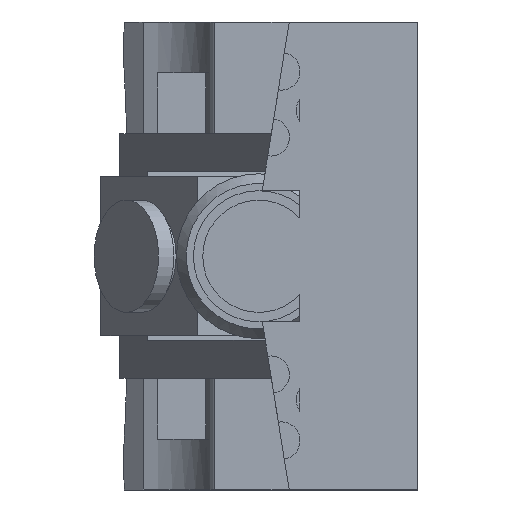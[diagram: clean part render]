
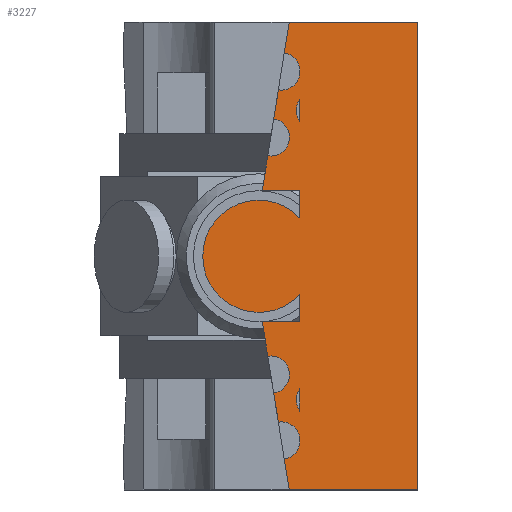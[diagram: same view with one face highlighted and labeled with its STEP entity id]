
A CAD part, front view. The second image highlights one B-rep face of the part: STEP entity #3227.
In plain terms, the highlighted planar face has unit normal (0, -1, 0).
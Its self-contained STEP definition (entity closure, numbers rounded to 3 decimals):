
#43=FACE_BOUND('',#503,.T.);
#44=FACE_BOUND('',#504,.T.);
#146=PLANE('',#3518);
#309=FACE_OUTER_BOUND('',#502,.T.);
#502=EDGE_LOOP('',(#2816,#2817,#2818,#2819,#2820,#2821,#2822,#2823,#2824,
#2825,#2826,#2827,#2828,#2829,#2830,#2831,#2832,#2833,#2834,#2835,#2836,
#2837));
#503=EDGE_LOOP('',(#2838,#2839));
#504=EDGE_LOOP('',(#2840,#2841));
#593=LINE('',#4701,#922);
#597=LINE('',#4709,#926);
#601=LINE('',#4717,#930);
#606=LINE('',#4734,#935);
#808=LINE('',#5283,#1137);
#809=LINE('',#5286,#1138);
#811=LINE('',#5290,#1140);
#813=LINE('',#5295,#1142);
#816=LINE('',#5300,#1145);
#819=LINE('',#5304,#1148);
#822=LINE('',#5312,#1151);
#824=LINE('',#5320,#1153);
#826=LINE('',#5325,#1155);
#829=LINE('',#5329,#1158);
#831=LINE('',#5334,#1160);
#832=LINE('',#5336,#1161);
#833=LINE('',#5338,#1162);
#922=VECTOR('',#3740,10.);
#926=VECTOR('',#3744,10.);
#930=VECTOR('',#3748,10.);
#935=VECTOR('',#3767,10.);
#1137=VECTOR('',#4267,10.);
#1138=VECTOR('',#4270,10.);
#1140=VECTOR('',#4274,10.);
#1142=VECTOR('',#4278,10.);
#1145=VECTOR('',#4281,10.);
#1148=VECTOR('',#4284,10.);
#1151=VECTOR('',#4293,10.);
#1153=VECTOR('',#4305,10.);
#1155=VECTOR('',#4309,10.);
#1158=VECTOR('',#4312,10.);
#1160=VECTOR('',#4320,10.);
#1161=VECTOR('',#4323,10.);
#1162=VECTOR('',#4326,10.);
#1231=CIRCLE('',#3346,3.175);
#1233=CIRCLE('',#3349,3.175);
#1243=CIRCLE('',#3398,3.3);
#1244=CIRCLE('',#3400,3.175);
#1246=CIRCLE('',#3404,3.3);
#1287=CIRCLE('',#3505,3.175);
#1288=CIRCLE('',#3508,3.175);
#1289=CIRCLE('',#3510,3.175);
#1290=CIRCLE('',#3514,9.525);
#1379=VERTEX_POINT('',#4699);
#1380=VERTEX_POINT('',#4700);
#1383=VERTEX_POINT('',#4706);
#1384=VERTEX_POINT('',#4708);
#1387=VERTEX_POINT('',#4714);
#1388=VERTEX_POINT('',#4716);
#1391=VERTEX_POINT('',#4727);
#1393=VERTEX_POINT('',#4733);
#1456=VERTEX_POINT('',#4938);
#1457=VERTEX_POINT('',#4939);
#1458=VERTEX_POINT('',#4944);
#1460=VERTEX_POINT('',#4952);
#1461=VERTEX_POINT('',#4953);
#1570=VERTEX_POINT('',#5285);
#1571=VERTEX_POINT('',#5289);
#1572=VERTEX_POINT('',#5293);
#1573=VERTEX_POINT('',#5294);
#1574=VERTEX_POINT('',#5297);
#1575=VERTEX_POINT('',#5299);
#1576=VERTEX_POINT('',#5302);
#1577=VERTEX_POINT('',#5307);
#1578=VERTEX_POINT('',#5311);
#1579=VERTEX_POINT('',#5319);
#1580=VERTEX_POINT('',#5323);
#1581=VERTEX_POINT('',#5324);
#1582=VERTEX_POINT('',#5327);
#1705=EDGE_CURVE('',#1379,#1380,#593,.T.);
#1709=EDGE_CURVE('',#1384,#1383,#597,.T.);
#1713=EDGE_CURVE('',#1388,#1387,#601,.T.);
#1717=EDGE_CURVE('',#1380,#1388,#1231,.T.);
#1719=EDGE_CURVE('',#1391,#1384,#1233,.T.);
#1722=EDGE_CURVE('',#1383,#1393,#606,.T.);
#1819=EDGE_CURVE('',#1456,#1457,#1243,.T.);
#1822=EDGE_CURVE('',#1387,#1458,#1244,.T.);
#1826=EDGE_CURVE('',#1460,#1461,#1246,.T.);
#1985=EDGE_CURVE('',#1458,#1391,#808,.T.);
#1986=EDGE_CURVE('',#1393,#1570,#809,.T.);
#1988=EDGE_CURVE('',#1570,#1571,#811,.T.);
#1990=EDGE_CURVE('',#1572,#1573,#813,.T.);
#1993=EDGE_CURVE('',#1575,#1574,#816,.T.);
#1996=EDGE_CURVE('',#1571,#1576,#819,.T.);
#1998=EDGE_CURVE('',#1576,#1577,#1287,.T.);
#2000=EDGE_CURVE('',#1577,#1578,#822,.T.);
#2002=EDGE_CURVE('',#1578,#1575,#1288,.T.);
#2003=EDGE_CURVE('',#1574,#1572,#1289,.T.);
#2004=EDGE_CURVE('',#1573,#1579,#824,.T.);
#2006=EDGE_CURVE('',#1580,#1581,#826,.T.);
#2009=EDGE_CURVE('',#1579,#1582,#829,.T.);
#2011=EDGE_CURVE('',#1582,#1580,#1290,.T.);
#2012=EDGE_CURVE('',#1581,#1379,#831,.T.);
#2013=EDGE_CURVE('',#1461,#1460,#832,.T.);
#2014=EDGE_CURVE('',#1457,#1456,#833,.T.);
#2816=ORIENTED_EDGE('',*,*,#1986,.T.);
#2817=ORIENTED_EDGE('',*,*,#1988,.T.);
#2818=ORIENTED_EDGE('',*,*,#1996,.T.);
#2819=ORIENTED_EDGE('',*,*,#1998,.T.);
#2820=ORIENTED_EDGE('',*,*,#2000,.T.);
#2821=ORIENTED_EDGE('',*,*,#2002,.T.);
#2822=ORIENTED_EDGE('',*,*,#1993,.T.);
#2823=ORIENTED_EDGE('',*,*,#2003,.T.);
#2824=ORIENTED_EDGE('',*,*,#1990,.T.);
#2825=ORIENTED_EDGE('',*,*,#2004,.T.);
#2826=ORIENTED_EDGE('',*,*,#2009,.T.);
#2827=ORIENTED_EDGE('',*,*,#2011,.T.);
#2828=ORIENTED_EDGE('',*,*,#2006,.T.);
#2829=ORIENTED_EDGE('',*,*,#2012,.T.);
#2830=ORIENTED_EDGE('',*,*,#1705,.T.);
#2831=ORIENTED_EDGE('',*,*,#1717,.T.);
#2832=ORIENTED_EDGE('',*,*,#1713,.T.);
#2833=ORIENTED_EDGE('',*,*,#1822,.T.);
#2834=ORIENTED_EDGE('',*,*,#1985,.T.);
#2835=ORIENTED_EDGE('',*,*,#1719,.T.);
#2836=ORIENTED_EDGE('',*,*,#1709,.T.);
#2837=ORIENTED_EDGE('',*,*,#1722,.T.);
#2838=ORIENTED_EDGE('',*,*,#2013,.T.);
#2839=ORIENTED_EDGE('',*,*,#1826,.T.);
#2840=ORIENTED_EDGE('',*,*,#2014,.T.);
#2841=ORIENTED_EDGE('',*,*,#1819,.T.);
#3227=ADVANCED_FACE('',(#309,#43,#44),#146,.T.);
#3346=AXIS2_PLACEMENT_3D('',#4724,#3754,#3755);
#3349=AXIS2_PLACEMENT_3D('',#4728,#3760,#3761);
#3398=AXIS2_PLACEMENT_3D('',#4940,#3945,#3946);
#3400=AXIS2_PLACEMENT_3D('',#4945,#3951,#3952);
#3404=AXIS2_PLACEMENT_3D('',#4954,#3961,#3962);
#3505=AXIS2_PLACEMENT_3D('',#5308,#4288,#4289);
#3508=AXIS2_PLACEMENT_3D('',#5315,#4297,#4298);
#3510=AXIS2_PLACEMENT_3D('',#5317,#4301,#4302);
#3514=AXIS2_PLACEMENT_3D('',#5332,#4316,#4317);
#3518=AXIS2_PLACEMENT_3D('',#5339,#4327,#4328);
#3740=DIRECTION('',(0.158,0.,-0.987));
#3744=DIRECTION('',(0.158,0.,-0.987));
#3748=DIRECTION('',(0.158,0.,-0.987));
#3754=DIRECTION('center_axis',(0.,1.,0.));
#3755=DIRECTION('ref_axis',(0.158,0.,-0.987));
#3760=DIRECTION('center_axis',(0.,1.,0.));
#3761=DIRECTION('ref_axis',(0.158,0.,-0.987));
#3767=DIRECTION('',(1.,0.,0.));
#3945=DIRECTION('center_axis',(0.,1.,0.));
#3946=DIRECTION('ref_axis',(0.,0.,-1.));
#3951=DIRECTION('center_axis',(0.,1.,0.));
#3952=DIRECTION('ref_axis',(0.158,0.,-0.987));
#3961=DIRECTION('center_axis',(0.,1.,0.));
#3962=DIRECTION('ref_axis',(0.,0.,-1.));
#4267=DIRECTION('',(0.,0.,-1.));
#4270=DIRECTION('',(0.,0.,1.));
#4274=DIRECTION('',(-1.,0.,0.));
#4278=DIRECTION('',(-0.158,0.,-0.987));
#4281=DIRECTION('',(-0.158,0.,-0.987));
#4284=DIRECTION('',(-0.158,0.,-0.987));
#4288=DIRECTION('center_axis',(0.,1.,0.));
#4289=DIRECTION('ref_axis',(-0.158,0.,-0.987));
#4293=DIRECTION('',(0.,0.,-1.));
#4297=DIRECTION('center_axis',(0.,1.,0.));
#4298=DIRECTION('ref_axis',(-0.158,0.,-0.987));
#4301=DIRECTION('center_axis',(0.,1.,0.));
#4302=DIRECTION('ref_axis',(-0.158,0.,-0.987));
#4305=DIRECTION('',(1.,0.,0.));
#4309=DIRECTION('',(0.,0.,-1.));
#4312=DIRECTION('',(0.,0.,-1.));
#4316=DIRECTION('center_axis',(0.,-1.,0.));
#4317=DIRECTION('ref_axis',(0.927,0.,-0.374));
#4320=DIRECTION('',(-1.,0.,0.));
#4323=DIRECTION('',(0.,0.,-1.));
#4326=DIRECTION('',(0.,0.,-1.));
#4327=DIRECTION('center_axis',(0.,-1.,0.));
#4328=DIRECTION('ref_axis',(0.,0.,-1.));
#4699=CARTESIAN_POINT('',(-307.781,-453.592,-10.333));
#4700=CARTESIAN_POINT('',(-306.84,-453.592,-16.215));
#4701=CARTESIAN_POINT('',(-310.271,-453.592,5.23));
#4706=CARTESIAN_POINT('',(-303.209,-453.592,-38.908));
#4708=CARTESIAN_POINT('',(-304.048,-453.592,-33.661));
#4709=CARTESIAN_POINT('',(-310.271,-453.592,5.23));
#4714=CARTESIAN_POINT('',(-305.052,-453.592,-27.391));
#4716=CARTESIAN_POINT('',(-305.836,-453.592,-22.485));
#4717=CARTESIAN_POINT('',(-310.271,-453.592,5.23));
#4724=CARTESIAN_POINT('Origin',(-306.338,-453.592,-19.35));
#4727=CARTESIAN_POINT('',(-301.384,-453.592,-30.763));
#4728=CARTESIAN_POINT('Origin',(-304.55,-453.592,-30.526));
#4733=CARTESIAN_POINT('',(-281.384,-453.592,-38.908));
#4734=CARTESIAN_POINT('',(-281.379,-453.592,-38.908));
#4938=CARTESIAN_POINT('',(-301.384,-453.592,-25.55));
#4939=CARTESIAN_POINT('',(-301.384,-453.592,-21.711));
#4940=CARTESIAN_POINT('Origin',(-298.7,-453.592,-23.63));
#4944=CARTESIAN_POINT('',(-301.384,-453.592,-30.289));
#4945=CARTESIAN_POINT('Origin',(-304.55,-453.592,-30.526));
#4952=CARTESIAN_POINT('',(-301.384,-453.592,23.568));
#4953=CARTESIAN_POINT('',(-301.384,-453.592,27.407));
#4954=CARTESIAN_POINT('Origin',(-298.7,-453.592,25.488));
#5283=CARTESIAN_POINT('',(-301.384,-453.592,20.623));
#5285=CARTESIAN_POINT('',(-281.384,-453.592,40.467));
#5286=CARTESIAN_POINT('',(-281.384,-453.592,40.472));
#5289=CARTESIAN_POINT('',(-303.209,-453.592,40.467));
#5290=CARTESIAN_POINT('',(-281.379,-453.592,40.467));
#5293=CARTESIAN_POINT('',(-306.84,-453.592,17.774));
#5294=CARTESIAN_POINT('',(-307.781,-453.592,11.892));
#5295=CARTESIAN_POINT('',(-304.079,-453.592,35.026));
#5297=CARTESIAN_POINT('',(-305.836,-453.592,24.044));
#5299=CARTESIAN_POINT('',(-305.052,-453.592,28.95));
#5300=CARTESIAN_POINT('',(-304.079,-453.592,35.026));
#5302=CARTESIAN_POINT('',(-304.048,-453.592,35.22));
#5304=CARTESIAN_POINT('',(-304.079,-453.592,35.026));
#5307=CARTESIAN_POINT('',(-301.384,-453.592,32.322));
#5308=CARTESIAN_POINT('Origin',(-304.55,-453.592,32.085));
#5311=CARTESIAN_POINT('',(-301.384,-453.592,31.848));
#5312=CARTESIAN_POINT('',(-301.384,-453.592,20.623));
#5315=CARTESIAN_POINT('Origin',(-304.55,-453.592,32.085));
#5317=CARTESIAN_POINT('Origin',(-306.338,-453.592,20.909));
#5319=CARTESIAN_POINT('',(-301.384,-453.592,11.892));
#5320=CARTESIAN_POINT('',(-281.379,-453.592,11.892));
#5323=CARTESIAN_POINT('',(-301.384,-453.592,-5.76));
#5324=CARTESIAN_POINT('',(-301.384,-453.592,-10.333));
#5325=CARTESIAN_POINT('',(-301.384,-453.592,20.623));
#5327=CARTESIAN_POINT('',(-301.384,-453.592,7.234));
#5329=CARTESIAN_POINT('',(-301.384,-453.592,20.623));
#5332=CARTESIAN_POINT('Origin',(-308.349,-453.592,0.737));
#5334=CARTESIAN_POINT('',(-281.379,-453.592,-10.333));
#5336=CARTESIAN_POINT('',(-301.384,-453.592,20.623));
#5338=CARTESIAN_POINT('',(-301.384,-453.592,20.623));
#5339=CARTESIAN_POINT('Origin',(-281.384,-453.592,40.467));
